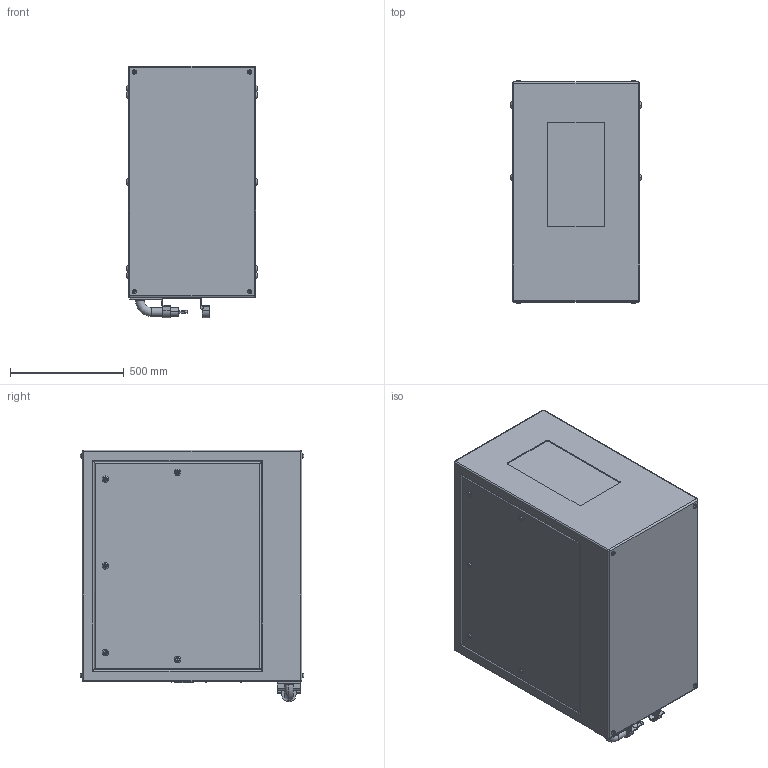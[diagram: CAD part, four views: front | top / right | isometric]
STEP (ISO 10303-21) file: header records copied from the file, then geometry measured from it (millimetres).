
FILE_DESCRIPTION (( 'STEP AP214' ), '1' );
FILE_NAME ('Oasis 59.100.P R02.STEP', '2022-09-12T23:33:57', ( '' ), ( '' ), 'SwSTEP 2.0', 'SolidWorks 2020', '' );
FILE_SCHEMA (( 'AUTOMOTIVE_DESIGN' ));
Length unit declared in the file: inch
Products named in the file (1): Oasis 59.100.P R02
Bounding box: 571.5 x 982.47 x 1104.9 mm (x, y, z)
Volume: 547174331.8 mm3; surface area: 4721775.2 mm2
Topology: 3 solids, 9 shells, 540 faces, 1233 edges, 782 vertices
Faces by surface type: plane 297, cylinder 185, torus 50, bspline 8
Entity records: 20635 total; most frequent: CARTESIAN_POINT 3068, DIRECTION 2691, ORIENTED_EDGE 2450, EDGE_CURVE 1225, AXIS2_PLACEMENT_3D 965, VERTEX_POINT 782, VECTOR 761, LINE 761
